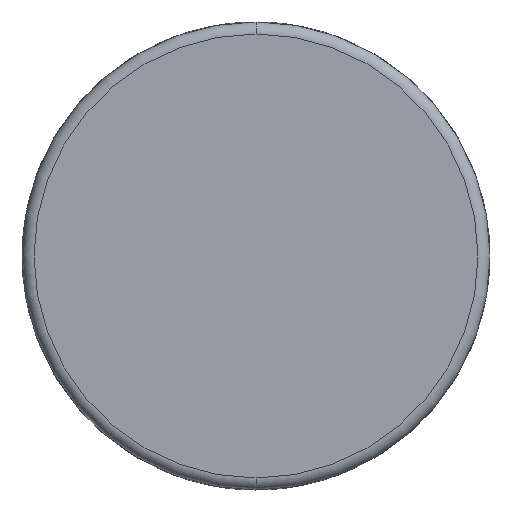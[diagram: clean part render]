
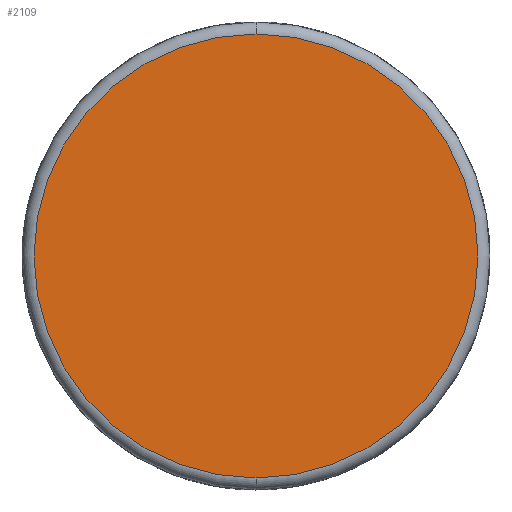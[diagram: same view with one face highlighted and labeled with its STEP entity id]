
A CAD part, front view. The second image highlights one B-rep face of the part: STEP entity #2109.
In plain terms, the highlighted planar face has unit normal (0, -1, 0).
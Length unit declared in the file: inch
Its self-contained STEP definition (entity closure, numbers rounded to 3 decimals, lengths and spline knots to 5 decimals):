
#1463 = DIRECTION ( 'NONE',  ( 0., 0., 1. ) ) ;
#1464 = DIRECTION ( 'NONE',  ( 0., -1., 0. ) ) ;
#1465 = AXIS2_PLACEMENT_3D ( 'NONE', #1470, #1464, #1463 ) ;
#1466 = CIRCLE ( 'NONE', #1465, 1.11 ) ;
#1467 = DIRECTION ( 'NONE',  ( 0., 0., 1. ) ) ;
#1468 = DIRECTION ( 'NONE',  ( 0., 1., 0. ) ) ;
#1469 = AXIS2_PLACEMENT_3D ( 'NONE', #1471, #1468, #1467 ) ;
#1470 = CARTESIAN_POINT ( 'NONE',  ( 0., 0., 0. ) ) ;
#1471 = CARTESIAN_POINT ( 'NONE',  ( 0., 0., 0. ) ) ;
#1472 = PLANE ( 'NONE',  #1469 ) ;
#1473 = FACE_OUTER_BOUND ( 'NONE', #2110, .T. ) ;
#1734 = EDGE_CURVE ( 'NONE', #1735, #1736, #3105, .T. ) ;
#1735 = VERTEX_POINT ( 'NONE', #3176 ) ;
#1736 = VERTEX_POINT ( 'NONE', #3175 ) ;
#2109 = ADVANCED_FACE ( 'NONE', ( #1473 ), #1472, .F. ) ;
#2110 = EDGE_LOOP ( 'NONE', ( #2111, #2113 ) ) ;
#2111 = ORIENTED_EDGE ( 'NONE', *, *, #2112, .T. ) ;
#2112 = EDGE_CURVE ( 'NONE', #1736, #1735, #1466, .T. ) ;
#2113 = ORIENTED_EDGE ( 'NONE', *, *, #1734, .T. ) ;
#3105 = CIRCLE ( 'NONE', #3180, 1.11 ) ;
#3175 = CARTESIAN_POINT ( 'NONE',  ( 0., 0., 1.11 ) ) ;
#3176 = CARTESIAN_POINT ( 'NONE',  ( 0., 0., -1.11 ) ) ;
#3177 = DIRECTION ( 'NONE',  ( 0., 0., 1. ) ) ;
#3178 = DIRECTION ( 'NONE',  ( 0., -1., 0. ) ) ;
#3179 = CARTESIAN_POINT ( 'NONE',  ( 0., 0., 0. ) ) ;
#3180 = AXIS2_PLACEMENT_3D ( 'NONE', #3179, #3178, #3177 ) ;
